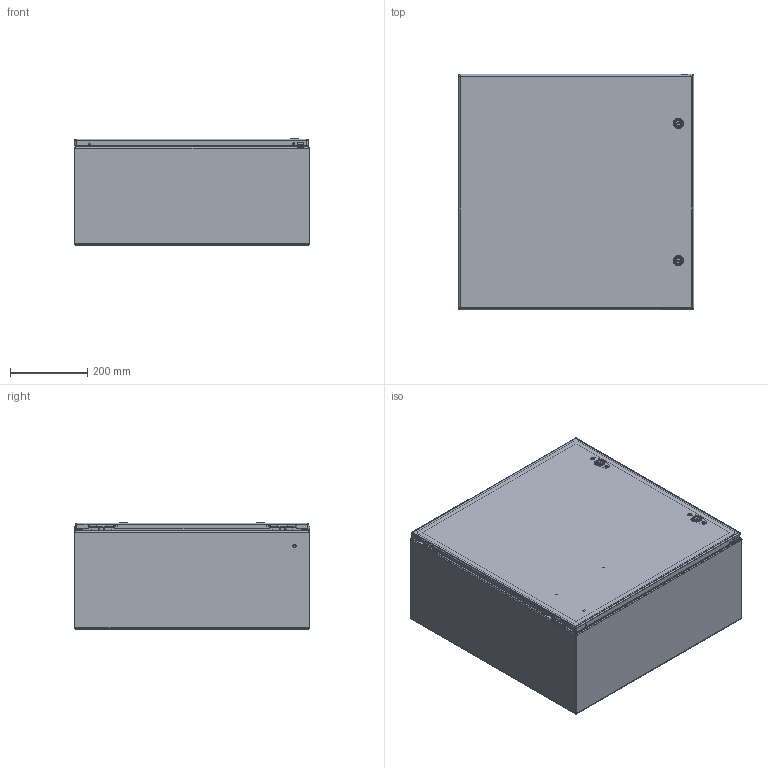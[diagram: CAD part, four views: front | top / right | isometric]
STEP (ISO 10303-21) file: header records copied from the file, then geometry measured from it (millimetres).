
FILE_DESCRIPTION (( 'STEP AP203' ), '1' );
FILE_NAME ('csd242410.STEP', '2012-05-09T14:42:40', ( 'User' ), ( 'Pentair Inc' ), 'SwSTEP 2.0', 'SolidWorks 2010', '' );
FILE_SCHEMA (( 'CONFIG_CONTROL_DESIGN' ));
Length unit declared in the file: inch
Products named in the file (27): csd242410; 87951438; 87755903_default; 23271001_After Weld; 87937933_assy; 87937973_weldment; 87937913; 99401225; 87931362_87931362; 64101001; 64201001; 87541994_Installed Height; 87541995; 64202001; 64210001; 64203001; 87927840_87927840; 87932903; 64138001; 89057564; 87543027; 89076399; 89076193; 89056623; 87929507; 87929767; 87929769_Installed on Pin
Assembly tree (43 placements, depth 4):
  csd242410
    87929507  x2
      87929767
      87929769_Installed on Pin
    87951438
      23271001_After Weld  x4
      87755903_default
      99401225
    87937933_assy
      87932903  x4
      87937973_weldment
        87931362_87931362  x6
        87937913
        99401225
      64138001  x2
      64101001  x2
        87927840_87927840
        87541995
        64201001
        87541994_Installed Height
        64202001
        64203001
        64210001
      89057564
    87543027  x2
    89076399  x2
      89076193
      89056623
Bounding box: 609.6 x 609.9 x 274.7 mm (x, y, z)
Volume: 2416160.7 mm3; surface area: 3065708.6 mm2
Topology: 47 solids, 47 shells, 2331 faces, 5754 edges, 3472 vertices
Faces by surface type: plane 851, cylinder 704, bspline 512, cone 132, torus 124, sphere 8
Entity records: 46673 total; most frequent: CARTESIAN_POINT 16355, ORIENTED_EDGE 5918, DIRECTION 5185, EDGE_CURVE 2959, AXIS2_PLACEMENT_3D 1860, VERTEX_POINT 1814, LINE 1465, VECTOR 1465
